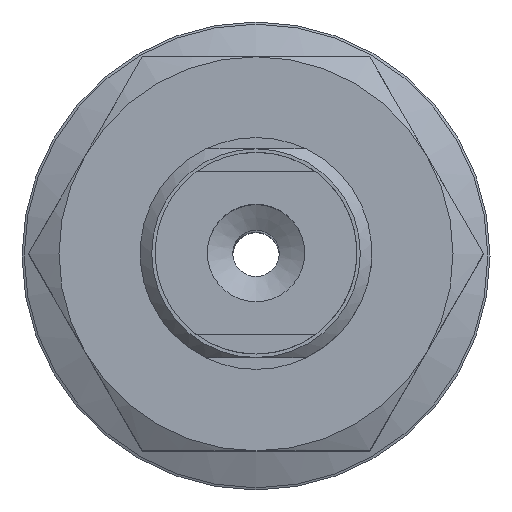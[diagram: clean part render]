
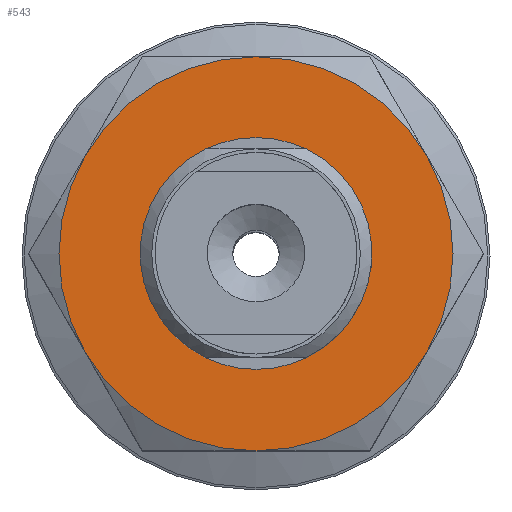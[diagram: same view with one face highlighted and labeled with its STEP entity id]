
A CAD part, top view. The second image highlights one B-rep face of the part: STEP entity #543.
In plain terms, the highlighted planar face has unit normal (0, 0, 1).
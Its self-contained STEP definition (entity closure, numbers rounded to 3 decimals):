
#543=ADVANCED_FACE('',(#758,#759),#760,.T.);
#758=FACE_BOUND('',#1176,.T.);
#759=FACE_OUTER_BOUND('',#1177,.T.);
#760=PLANE('',#1178);
#1176=EDGE_LOOP('',(#1754));
#1177=EDGE_LOOP('',(#1755,#1756,#1757,#1758,#1759,#1760));
#1178=AXIS2_PLACEMENT_3D('',#1761,#1762,#1763);
#1754=ORIENTED_EDGE('',*,*,#2598,.F.);
#1755=ORIENTED_EDGE('',*,*,#2599,.F.);
#1756=ORIENTED_EDGE('',*,*,#2592,.F.);
#1757=ORIENTED_EDGE('',*,*,#2568,.F.);
#1758=ORIENTED_EDGE('',*,*,#2571,.F.);
#1759=ORIENTED_EDGE('',*,*,#2600,.F.);
#1760=ORIENTED_EDGE('',*,*,#2601,.F.);
#1761=CARTESIAN_POINT('',(-9.815,-8.5,4.0));
#1762=DIRECTION('',(0.0,0.0,1.0));
#1763=DIRECTION('',(1.0,0.0,0.0));
#2568=EDGE_CURVE('',#2852,#2853,#2854,.T.);
#2571=EDGE_CURVE('',#2858,#2852,#2859,.T.);
#2592=EDGE_CURVE('',#2853,#2893,#2894,.T.);
#2598=EDGE_CURVE('',#2902,#2902,#2903,.T.);
#2599=EDGE_CURVE('',#2893,#2904,#2905,.T.);
#2600=EDGE_CURVE('',#2906,#2858,#2907,.T.);
#2601=EDGE_CURVE('',#2904,#2906,#2908,.T.);
#2852=VERTEX_POINT('',#3400);
#2853=VERTEX_POINT('',#3401);
#2854=CIRCLE('',#3402,8.5);
#2858=VERTEX_POINT('',#3414);
#2859=CIRCLE('',#3415,8.5);
#2893=VERTEX_POINT('',#3495);
#2894=CIRCLE('',#3496,8.5);
#2902=VERTEX_POINT('',#3521);
#2903=CIRCLE('',#3522,4.5);
#2904=VERTEX_POINT('',#3523);
#2905=CIRCLE('',#3524,8.5);
#2906=VERTEX_POINT('',#3525);
#2907=CIRCLE('',#3526,8.5);
#2908=CIRCLE('',#3527,8.5);
#3400=CARTESIAN_POINT('',(7.361,4.25,4.0));
#3401=CARTESIAN_POINT('',(7.361,-4.25,4.0));
#3402=AXIS2_PLACEMENT_3D('',#4016,#4017,#4018);
#3414=CARTESIAN_POINT('',(0.,8.5,4.0));
#3415=AXIS2_PLACEMENT_3D('',#4019,#4020,#4021);
#3495=CARTESIAN_POINT('',(0.,-8.5,4.0));
#3496=AXIS2_PLACEMENT_3D('',#4045,#4046,#4047);
#3521=CARTESIAN_POINT('',(0.0,-4.5,4.0));
#3522=AXIS2_PLACEMENT_3D('',#4049,#4050,#4051);
#3523=CARTESIAN_POINT('',(-7.361,-4.25,4.0));
#3524=AXIS2_PLACEMENT_3D('',#4052,#4053,#4054);
#3525=CARTESIAN_POINT('',(-7.361,4.25,4.0));
#3526=AXIS2_PLACEMENT_3D('',#4055,#4056,#4057);
#3527=AXIS2_PLACEMENT_3D('',#4058,#4059,#4060);
#4016=CARTESIAN_POINT('',(0.,0.,4.0));
#4017=DIRECTION('',(0.,0.,-1.0));
#4018=DIRECTION('',(0.866,0.5,0.));
#4019=CARTESIAN_POINT('',(0.,0.,4.0));
#4020=DIRECTION('',(0.,0.,-1.0));
#4021=DIRECTION('',(0.866,0.5,0.));
#4045=CARTESIAN_POINT('',(0.,0.,4.0));
#4046=DIRECTION('',(0.,0.,-1.0));
#4047=DIRECTION('',(0.866,0.5,0.));
#4049=CARTESIAN_POINT('',(0.0,0.0,4.0));
#4050=DIRECTION('',(0.0,0.,1.0));
#4051=DIRECTION('',(0.0,-1.0,0.));
#4052=CARTESIAN_POINT('',(0.,0.,4.0));
#4053=DIRECTION('',(0.,0.,-1.0));
#4054=DIRECTION('',(0.866,0.5,0.));
#4055=CARTESIAN_POINT('',(0.,0.,4.0));
#4056=DIRECTION('',(0.,0.,-1.0));
#4057=DIRECTION('',(0.866,0.5,0.));
#4058=CARTESIAN_POINT('',(0.,0.,4.0));
#4059=DIRECTION('',(0.,0.,-1.0));
#4060=DIRECTION('',(0.866,0.5,0.));
